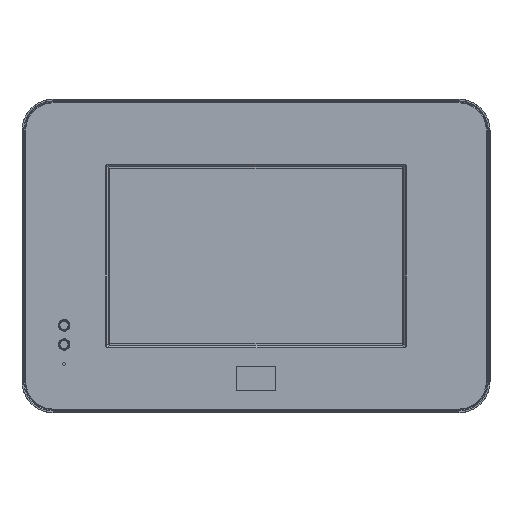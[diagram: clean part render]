
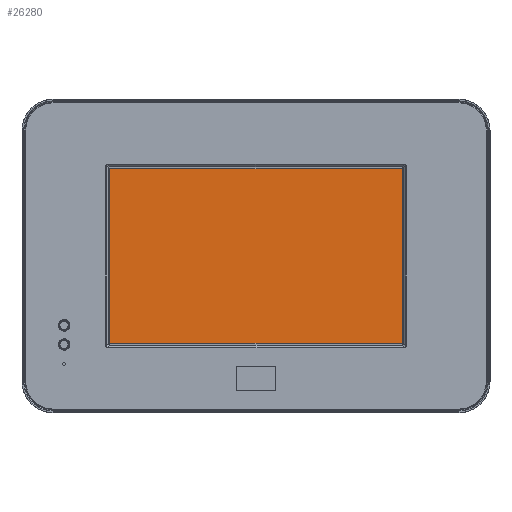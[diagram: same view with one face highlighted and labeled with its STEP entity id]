
A CAD part, top view. The second image highlights one B-rep face of the part: STEP entity #26280.
In plain terms, the highlighted planar face has unit normal (0, 0, 1) as drawn and (0, -1, 0) by its records, which use the part's own axes.
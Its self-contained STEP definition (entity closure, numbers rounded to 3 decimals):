
#22570=CARTESIAN_POINT('',(260.287,44.352,92.83));
#22580=VERTEX_POINT('',#22570);
#22610=CARTESIAN_POINT('',(260.287,44.352,0.));
#22620=DIRECTION('',(0.,0.,-1.));
#22630=VECTOR('',#22620,1.);
#22640=LINE('',#22610,#22630);
#22650=CARTESIAN_POINT('',(260.287,44.352,1.43));
#22660=VERTEX_POINT('',#22650);
#22670=EDGE_CURVE('',#22580,#22660,#22640,.T.);
#23190=CARTESIAN_POINT('',(413.287,44.352,1.43));
#23200=VERTEX_POINT('',#23190);
#23230=CARTESIAN_POINT('',(413.287,44.352,0.));
#23240=DIRECTION('',(0.,0.,1.));
#23250=VECTOR('',#23240,1.);
#23260=LINE('',#23230,#23250);
#23270=CARTESIAN_POINT('',(413.287,44.352,92.83));
#23280=VERTEX_POINT('',#23270);
#23290=EDGE_CURVE('',#23200,#23280,#23260,.T.);
#26070=CARTESIAN_POINT('',(0.,44.352,0.));
#26080=DIRECTION('',(0.,-1.,0.));
#26090=DIRECTION('',(1.,0.,0.));
#26100=AXIS2_PLACEMENT_3D('',#26070,#26080,#26090);
#26110=PLANE('',#26100);
#26120=ORIENTED_EDGE('',*,*,#23290,.T.);
#26130=CARTESIAN_POINT('',(0.,44.352,1.43));
#26140=DIRECTION('',(1.,0.,0.));
#26150=VECTOR('',#26140,1.);
#26160=LINE('',#26130,#26150);
#26170=EDGE_CURVE('',#22660,#23200,#26160,.T.);
#26180=ORIENTED_EDGE('',*,*,#26170,.T.);
#26190=ORIENTED_EDGE('',*,*,#22670,.T.);
#26200=CARTESIAN_POINT('',(0.,44.352,92.83));
#26210=DIRECTION('',(-1.,0.,0.));
#26220=VECTOR('',#26210,1.);
#26230=LINE('',#26200,#26220);
#26240=EDGE_CURVE('',#23280,#22580,#26230,.T.);
#26250=ORIENTED_EDGE('',*,*,#26240,.T.);
#26260=EDGE_LOOP('',(#26250,#26190,#26180,#26120));
#26270=FACE_OUTER_BOUND('',#26260,.T.);
#26280=ADVANCED_FACE('',(#26270),#26110,.T.);
